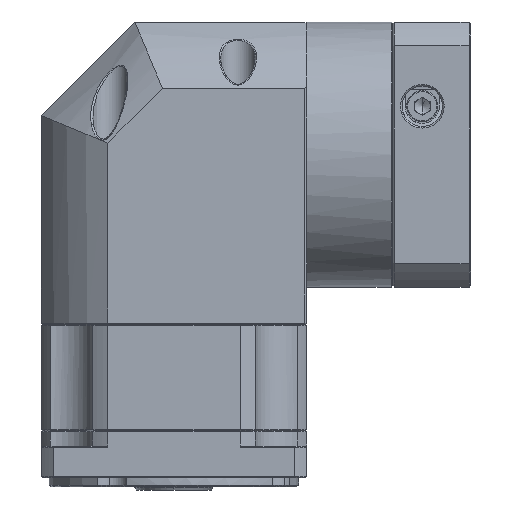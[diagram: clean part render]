
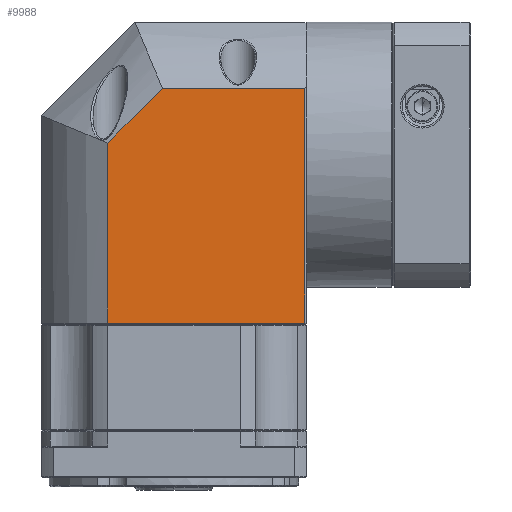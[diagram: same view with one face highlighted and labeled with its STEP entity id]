
A CAD part, front view. The second image highlights one B-rep face of the part: STEP entity #9988.
In plain terms, the highlighted planar face has unit normal (0, -1, 0).
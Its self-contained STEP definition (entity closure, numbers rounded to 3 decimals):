
#4073 = LINE ( 'NONE', #131267, #104337 ) ;
#5491 = FACE_OUTER_BOUND ( 'NONE', #52595, .T. ) ;
#8337 = DIRECTION ( 'NONE',  ( 1., 0., 0. ) ) ;
#9922 = CARTESIAN_POINT ( 'NONE',  ( -123.807, 10.778, 25.579 ) ) ;
#9988 = ADVANCED_FACE ( 'NONE', ( #5491 ), #121962, .F. ) ;
#11423 = ORIENTED_EDGE ( 'NONE', *, *, #100017, .F. ) ;
#13098 = EDGE_CURVE ( 'NONE', #109354, #147994, #95589, .T. ) ;
#22300 = CARTESIAN_POINT ( 'NONE',  ( -187.02, 10.778, 8.048 ) ) ;
#25155 = ORIENTED_EDGE ( 'NONE', *, *, #13098, .F. ) ;
#30551 = LINE ( 'NONE', #165034, #96030 ) ;
#40749 = EDGE_CURVE ( 'NONE', #168934, #150464, #52479, .T. ) ;
#40810 = CARTESIAN_POINT ( 'NONE',  ( -169.489, 10.778, 25.579 ) ) ;
#45821 = CARTESIAN_POINT ( 'NONE',  ( -123.307, 10.778, 46.866 ) ) ;
#47487 = ORIENTED_EDGE ( 'NONE', *, *, #137990, .F. ) ;
#48529 = CARTESIAN_POINT ( 'NONE',  ( -123.807, 10.778, 46.866 ) ) ;
#52479 = LINE ( 'NONE', #48529, #156922 ) ;
#52595 = EDGE_LOOP ( 'NONE', ( #135931, #167800, #11423, #25155, #47487 ) ) ;
#53865 = CARTESIAN_POINT ( 'NONE',  ( -187.02, 10.778, 8.048 ) ) ;
#58918 = DIRECTION ( 'NONE',  ( -1., 0., 0. ) ) ;
#77740 = VECTOR ( 'NONE', #96134, 1000. ) ;
#90061 = LINE ( 'NONE', #148238, #77740 ) ;
#95589 = LINE ( 'NONE', #22300, #165186 ) ;
#96030 = VECTOR ( 'NONE', #8337, 1000. ) ;
#96134 = DIRECTION ( 'NONE',  ( 1., 0., 0. ) ) ;
#100017 = EDGE_CURVE ( 'NONE', #147994, #168934, #90061, .T. ) ;
#104337 = VECTOR ( 'NONE', #144428, 1000. ) ;
#109354 = VERTEX_POINT ( 'NONE', #53865 ) ;
#110219 = CARTESIAN_POINT ( 'NONE',  ( -123.807, 10.778, -49.634 ) ) ;
#113793 = DIRECTION ( 'NONE',  ( 0.707, 0., 0.707 ) ) ;
#114290 = DIRECTION ( 'NONE',  ( 0., 0., -1. ) ) ;
#116242 = VERTEX_POINT ( 'NONE', #161424 ) ;
#121962 = PLANE ( 'NONE',  #134753 ) ;
#131267 = CARTESIAN_POINT ( 'NONE',  ( -187.02, 10.778, 46.866 ) ) ;
#134753 = AXIS2_PLACEMENT_3D ( 'NONE', #45821, #137356, #58918 ) ;
#135931 = ORIENTED_EDGE ( 'NONE', *, *, #140311, .T. ) ;
#137356 = DIRECTION ( 'NONE',  ( 0., 1., 0. ) ) ;
#137990 = EDGE_CURVE ( 'NONE', #116242, #109354, #4073, .T. ) ;
#140311 = EDGE_CURVE ( 'NONE', #116242, #150464, #30551, .T. ) ;
#144428 = DIRECTION ( 'NONE',  ( 0., 0., 1. ) ) ;
#147994 = VERTEX_POINT ( 'NONE', #40810 ) ;
#148238 = CARTESIAN_POINT ( 'NONE',  ( -123.307, 10.778, 25.579 ) ) ;
#150464 = VERTEX_POINT ( 'NONE', #110219 ) ;
#156922 = VECTOR ( 'NONE', #114290, 1000. ) ;
#161424 = CARTESIAN_POINT ( 'NONE',  ( -187.02, 10.778, -49.634 ) ) ;
#165034 = CARTESIAN_POINT ( 'NONE',  ( -123.307, 10.778, -49.634 ) ) ;
#165186 = VECTOR ( 'NONE', #113793, 1000. ) ;
#167800 = ORIENTED_EDGE ( 'NONE', *, *, #40749, .F. ) ;
#168934 = VERTEX_POINT ( 'NONE', #9922 ) ;
